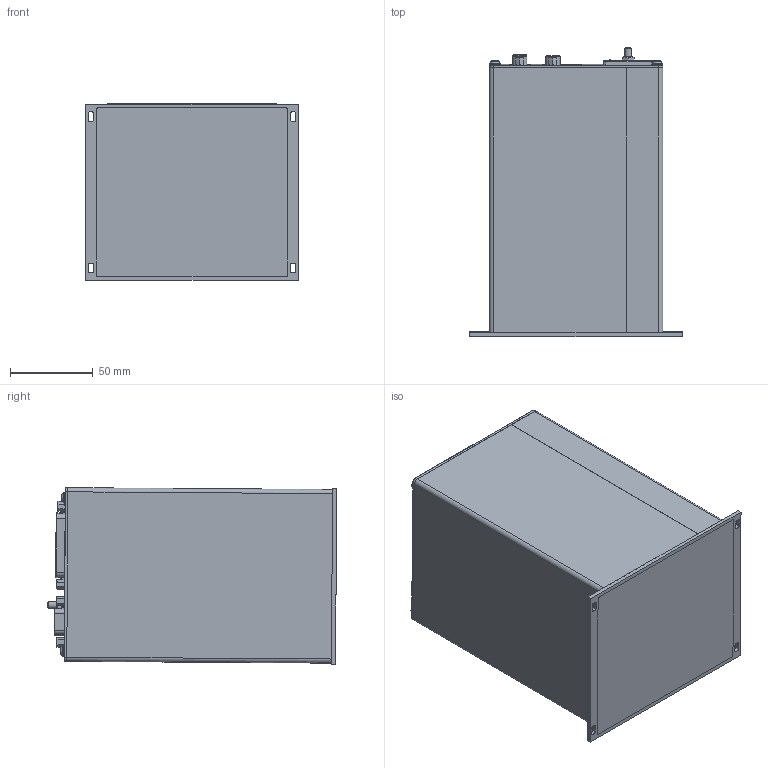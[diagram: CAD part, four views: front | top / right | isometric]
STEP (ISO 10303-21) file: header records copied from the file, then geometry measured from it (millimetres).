
FILE_DESCRIPTION((''),'2;1');
FILE_NAME('P:\Projekte OLV\Combivac CM 51\Gehäuse mit Front- und Rückplatte\Inventor_Projekt_CM 51\COMBIVAC CM51.stp','2011-03-15T15:40:44',('BA'),(''),'Autodesk Inventor 2011','Autodesk Inventor 2011','');
FILE_SCHEMA(('CONFIG_CONTROL_DESIGN'));
Length unit declared in the file: millimetre
Products named in the file (1): Bauteil13
Bounding box: 128.4 x 174.99 x 106.8 mm (x, y, z)
Volume: 329680.1 mm3; surface area: 310055.4 mm2
Topology: 43 solids, 43 shells, 3017 faces, 7934 edges, 5059 vertices
Faces by surface type: plane 1990, cylinder 643, cone 191, torus 102, bspline 73, sphere 18
Full cylindrical faces by diameter (mm): 1 x1, 1.067 x40, 1.118 x9, 1.4 x6, 2.156 x6, 2.21 x58, 2.5 x1, 2.606 x6, 2.693 x4, 3 x8, 3.048 x6, 3.1 x2, 3.242 x1, 3.5 x10, 4 x3, 4.3 x1, 5.5 x5, 5.7 x4, 9 x2, 10 x1, 14 x3, 15 x2
Entity records: 96709 total; most frequent: CARTESIAN_POINT 23082, ORIENTED_EDGE 15198, DIRECTION 14755, EDGE_CURVE 7599, VECTOR 5621, LINE 5621, VERTEX_POINT 5040, AXIS2_PLACEMENT_3D 4567
